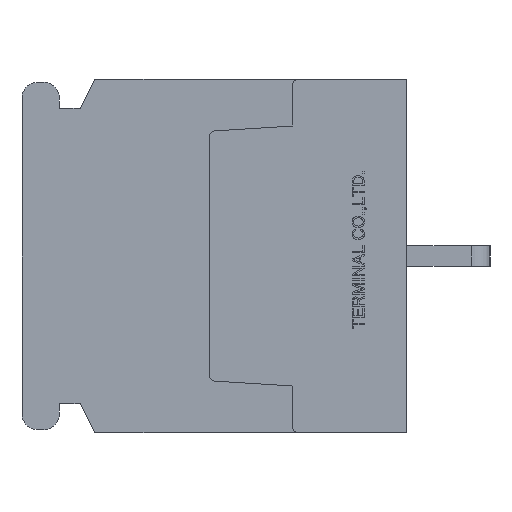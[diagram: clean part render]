
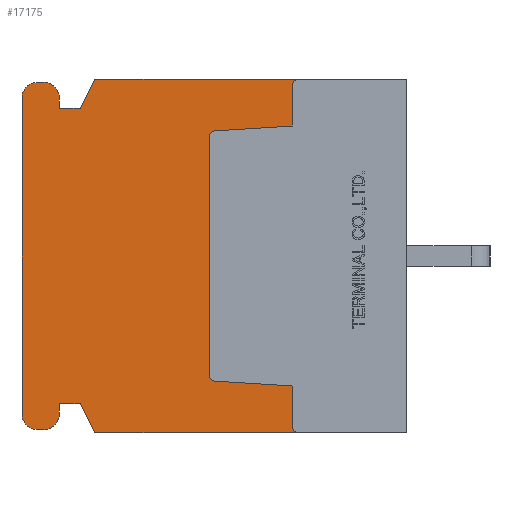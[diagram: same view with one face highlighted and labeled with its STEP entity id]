
A CAD part, left-side view. The second image highlights one B-rep face of the part: STEP entity #17175.
In plain terms, the highlighted planar face has unit normal (-1, 0, 0).
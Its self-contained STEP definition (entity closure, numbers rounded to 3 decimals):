
#388=CIRCLE('',#17620,0.3);
#389=CIRCLE('',#17622,0.3);
#390=CIRCLE('',#17626,0.3);
#391=CIRCLE('',#17629,0.3);
#724=CIRCLE('',#18527,0.75);
#725=CIRCLE('',#18528,0.75);
#726=CIRCLE('',#18529,0.75);
#727=CIRCLE('',#18530,0.75);
#1457=VERTEX_POINT('',#24067);
#1458=VERTEX_POINT('',#24068);
#1459=VERTEX_POINT('',#24073);
#1460=VERTEX_POINT('',#24077);
#1461=VERTEX_POINT('',#24078);
#1462=VERTEX_POINT('',#24083);
#1463=VERTEX_POINT('',#24087);
#1464=VERTEX_POINT('',#24091);
#1465=VERTEX_POINT('',#24095);
#1466=VERTEX_POINT('',#24099);
#2024=VERTEX_POINT('',#25874);
#2049=VERTEX_POINT('',#25930);
#2362=VERTEX_POINT('',#27045);
#2363=VERTEX_POINT('',#27047);
#2364=VERTEX_POINT('',#27049);
#2365=VERTEX_POINT('',#27051);
#2366=VERTEX_POINT('',#27053);
#2367=VERTEX_POINT('',#27055);
#2368=VERTEX_POINT('',#27057);
#2369=VERTEX_POINT('',#27059);
#2370=VERTEX_POINT('',#27061);
#2371=VERTEX_POINT('',#27063);
#2372=VERTEX_POINT('',#27065);
#2373=VERTEX_POINT('',#27067);
#3251=VECTOR('',#19326,1.);
#3257=VECTOR('',#19341,1.);
#3259=VECTOR('',#19344,1.);
#3262=VECTOR('',#19352,1.);
#3265=VECTOR('',#19360,1.);
#3792=VECTOR('',#20745,1.);
#3820=VECTOR('',#20775,1.);
#4136=VECTOR('',#21672,1.);
#4137=VECTOR('',#21673,1.);
#4138=VECTOR('',#21674,1.);
#4139=VECTOR('',#21677,1.);
#4140=VECTOR('',#21680,1.);
#4141=VECTOR('',#21683,1.);
#4142=VECTOR('',#21686,1.);
#4143=VECTOR('',#21687,1.);
#4144=VECTOR('',#21688,1.);
#5085=LINE('',#24066,#3251);
#5091=LINE('',#24082,#3257);
#5093=LINE('',#24086,#3259);
#5096=LINE('',#24094,#3262);
#5099=LINE('',#24102,#3265);
#5626=LINE('',#25875,#3792);
#5654=LINE('',#25929,#3820);
#5970=LINE('',#27044,#4136);
#5971=LINE('',#27046,#4137);
#5972=LINE('',#27048,#4138);
#5973=LINE('',#27052,#4139);
#5974=LINE('',#27056,#4140);
#5975=LINE('',#27060,#4141);
#5976=LINE('',#27064,#4142);
#5977=LINE('',#27066,#4143);
#5978=LINE('',#27068,#4144);
#7027=EDGE_CURVE('',#1457,#1458,#5085,.T.);
#7030=EDGE_CURVE('',#1459,#1457,#388,.T.);
#7032=EDGE_CURVE('',#1460,#1461,#389,.T.);
#7035=EDGE_CURVE('',#1462,#1460,#5091,.T.);
#7037=EDGE_CURVE('',#1463,#1462,#5093,.T.);
#7039=EDGE_CURVE('',#1464,#1463,#390,.T.);
#7041=EDGE_CURVE('',#1465,#1464,#5096,.T.);
#7043=EDGE_CURVE('',#1466,#1465,#391,.T.);
#7045=EDGE_CURVE('',#1458,#1466,#5099,.T.);
#7851=EDGE_CURVE('',#2024,#1461,#5626,.T.);
#7879=EDGE_CURVE('',#1459,#2049,#5654,.T.);
#8374=EDGE_CURVE('',#2362,#2024,#5970,.T.);
#8375=EDGE_CURVE('',#2363,#2362,#5971,.T.);
#8376=EDGE_CURVE('',#2364,#2363,#5972,.T.);
#8377=EDGE_CURVE('',#2365,#2364,#724,.T.);
#8378=EDGE_CURVE('',#2366,#2365,#5973,.T.);
#8379=EDGE_CURVE('',#2367,#2366,#725,.T.);
#8380=EDGE_CURVE('',#2368,#2367,#5974,.T.);
#8381=EDGE_CURVE('',#2369,#2368,#726,.T.);
#8382=EDGE_CURVE('',#2370,#2369,#5975,.T.);
#8383=EDGE_CURVE('',#2371,#2370,#727,.T.);
#8384=EDGE_CURVE('',#2372,#2371,#5976,.T.);
#8385=EDGE_CURVE('',#2373,#2372,#5977,.T.);
#8386=EDGE_CURVE('',#2049,#2373,#5978,.T.);
#12775=ORIENTED_EDGE('',*,*,#7032,.T.);
#12776=ORIENTED_EDGE('',*,*,#7851,.F.);
#12777=ORIENTED_EDGE('',*,*,#8374,.F.);
#12778=ORIENTED_EDGE('',*,*,#8375,.F.);
#12779=ORIENTED_EDGE('',*,*,#8376,.F.);
#12780=ORIENTED_EDGE('',*,*,#8377,.F.);
#12781=ORIENTED_EDGE('',*,*,#8378,.F.);
#12782=ORIENTED_EDGE('',*,*,#8379,.F.);
#12783=ORIENTED_EDGE('',*,*,#8380,.F.);
#12784=ORIENTED_EDGE('',*,*,#8381,.F.);
#12785=ORIENTED_EDGE('',*,*,#8382,.F.);
#12786=ORIENTED_EDGE('',*,*,#8383,.F.);
#12787=ORIENTED_EDGE('',*,*,#8384,.F.);
#12788=ORIENTED_EDGE('',*,*,#8385,.F.);
#12789=ORIENTED_EDGE('',*,*,#8386,.F.);
#12790=ORIENTED_EDGE('',*,*,#7879,.F.);
#12791=ORIENTED_EDGE('',*,*,#7030,.T.);
#12792=ORIENTED_EDGE('',*,*,#7027,.T.);
#12793=ORIENTED_EDGE('',*,*,#7045,.T.);
#12794=ORIENTED_EDGE('',*,*,#7043,.T.);
#12795=ORIENTED_EDGE('',*,*,#7041,.T.);
#12796=ORIENTED_EDGE('',*,*,#7039,.T.);
#12797=ORIENTED_EDGE('',*,*,#7037,.T.);
#12798=ORIENTED_EDGE('',*,*,#7035,.T.);
#15050=EDGE_LOOP('',(#12775,#12776,#12777,#12778,#12779,#12780,#12781,#12782,
#12783,#12784,#12785,#12786,#12787,#12788,#12789,#12790,#12791,#12792,#12793,
#12794,#12795,#12796,#12797,#12798));
#16152=FACE_BOUND('',#15050,.T.);
#17175=ADVANCED_FACE('',(#16152),#29459,.F.);
#17620=AXIS2_PLACEMENT_3D('',#24072,#19331,#19332);
#17622=AXIS2_PLACEMENT_3D('',#24076,#19336,#19337);
#17626=AXIS2_PLACEMENT_3D('',#24090,#19348,#19349);
#17629=AXIS2_PLACEMENT_3D('',#24098,#19356,#19357);
#18526=AXIS2_PLACEMENT_3D('',#27043,#21671,$);
#18527=AXIS2_PLACEMENT_3D('',#27050,#21675,#21676);
#18528=AXIS2_PLACEMENT_3D('',#27054,#21678,#21679);
#18529=AXIS2_PLACEMENT_3D('',#27058,#21681,#21682);
#18530=AXIS2_PLACEMENT_3D('',#27062,#21684,#21685);
#19326=DIRECTION('',(0.,0.,1.));
#19331=DIRECTION('',(1.,0.,0.));
#19332=DIRECTION('',(0.,0.,-0.3));
#19336=DIRECTION('',(1.,0.,0.));
#19337=DIRECTION('',(0.,0.,-0.3));
#19341=DIRECTION('',(0.,0.,1.));
#19344=DIRECTION('',(0.,-0.998,0.062));
#19348=DIRECTION('',(1.,0.,0.));
#19349=DIRECTION('',(0.,0.,-0.3));
#19352=DIRECTION('',(0.,0.,1.));
#19356=DIRECTION('',(1.,0.,0.));
#19357=DIRECTION('',(0.,0.,-0.3));
#19360=DIRECTION('',(0.,0.998,0.062));
#20745=DIRECTION('',(0.,-1.,0.));
#20775=DIRECTION('',(0.,1.,0.));
#21671=DIRECTION('',(1.,0.,0.));
#21672=DIRECTION('',(0.,-0.447,0.894));
#21673=DIRECTION('',(0.,-1.,0.));
#21674=DIRECTION('',(0.,0.,-1.));
#21675=DIRECTION('',(1.,0.,0.));
#21676=DIRECTION('',(0.,0.,-0.75));
#21677=DIRECTION('',(0.,-1.,0.));
#21678=DIRECTION('',(1.,0.,0.));
#21679=DIRECTION('',(0.,0.,-0.75));
#21680=DIRECTION('',(0.,0.,1.));
#21681=DIRECTION('',(1.,0.,0.));
#21682=DIRECTION('',(0.,0.,-0.75));
#21683=DIRECTION('',(0.,1.,0.));
#21684=DIRECTION('',(1.,0.,0.));
#21685=DIRECTION('',(0.,0.,-0.75));
#21686=DIRECTION('',(0.,0.,-1.));
#21687=DIRECTION('',(0.,1.,0.));
#21688=DIRECTION('',(0.,0.447,0.894));
#24066=CARTESIAN_POINT('',(0.,5.5,-3.613));
#24067=CARTESIAN_POINT('',(0.,5.5,-8.2));
#24068=CARTESIAN_POINT('',(0.,5.5,-6.25));
#24072=CARTESIAN_POINT('',(0.,5.2,-8.2));
#24073=CARTESIAN_POINT('',(0.,5.2,-8.5));
#24076=CARTESIAN_POINT('',(0.,5.2,8.2));
#24077=CARTESIAN_POINT('',(0.,5.5,8.2));
#24078=CARTESIAN_POINT('',(0.,5.2,8.5));
#24082=CARTESIAN_POINT('',(0.,5.5,3.612));
#24083=CARTESIAN_POINT('',(0.,5.5,6.25));
#24086=CARTESIAN_POINT('',(0.,8.598,6.056));
#24087=CARTESIAN_POINT('',(0.,9.219,6.018));
#24090=CARTESIAN_POINT('',(0.,9.2,5.718));
#24091=CARTESIAN_POINT('',(0.,9.5,5.718));
#24094=CARTESIAN_POINT('',(0.,9.5,0.));
#24095=CARTESIAN_POINT('',(0.,9.5,-5.718));
#24098=CARTESIAN_POINT('',(0.,9.2,-5.718));
#24099=CARTESIAN_POINT('',(0.,9.219,-6.018));
#24102=CARTESIAN_POINT('',(0.,8.598,-6.056));
#25874=CARTESIAN_POINT('',(0.,15.,8.5));
#25875=CARTESIAN_POINT('',(0.,15.,8.5));
#25929=CARTESIAN_POINT('',(0.,0.,-8.5));
#25930=CARTESIAN_POINT('',(0.,15.,-8.5));
#27043=CARTESIAN_POINT('',(0.,9.463,0.));
#27044=CARTESIAN_POINT('',(0.,15.7,7.1));
#27045=CARTESIAN_POINT('',(0.,15.7,7.1));
#27046=CARTESIAN_POINT('',(0.,16.7,7.1));
#27047=CARTESIAN_POINT('',(0.,16.7,7.1));
#27048=CARTESIAN_POINT('',(0.,16.7,7.6));
#27049=CARTESIAN_POINT('',(0.,16.7,7.6));
#27050=CARTESIAN_POINT('',(0.,17.45,7.6));
#27051=CARTESIAN_POINT('',(0.,17.45,8.35));
#27052=CARTESIAN_POINT('',(0.,17.75,8.35));
#27053=CARTESIAN_POINT('',(0.,17.75,8.35));
#27054=CARTESIAN_POINT('',(0.,17.75,7.6));
#27055=CARTESIAN_POINT('',(0.,18.5,7.6));
#27056=CARTESIAN_POINT('',(0.,18.5,-7.6));
#27057=CARTESIAN_POINT('',(0.,18.5,-7.6));
#27058=CARTESIAN_POINT('',(0.,17.75,-7.6));
#27059=CARTESIAN_POINT('',(0.,17.75,-8.35));
#27060=CARTESIAN_POINT('',(0.,17.45,-8.35));
#27061=CARTESIAN_POINT('',(0.,17.45,-8.35));
#27062=CARTESIAN_POINT('',(0.,17.45,-7.6));
#27063=CARTESIAN_POINT('',(0.,16.7,-7.6));
#27064=CARTESIAN_POINT('',(0.,16.7,-7.1));
#27065=CARTESIAN_POINT('',(0.,16.7,-7.1));
#27066=CARTESIAN_POINT('',(0.,15.7,-7.1));
#27067=CARTESIAN_POINT('',(0.,15.7,-7.1));
#27068=CARTESIAN_POINT('',(0.,15.,-8.5));
#29459=PLANE('',#18526);
